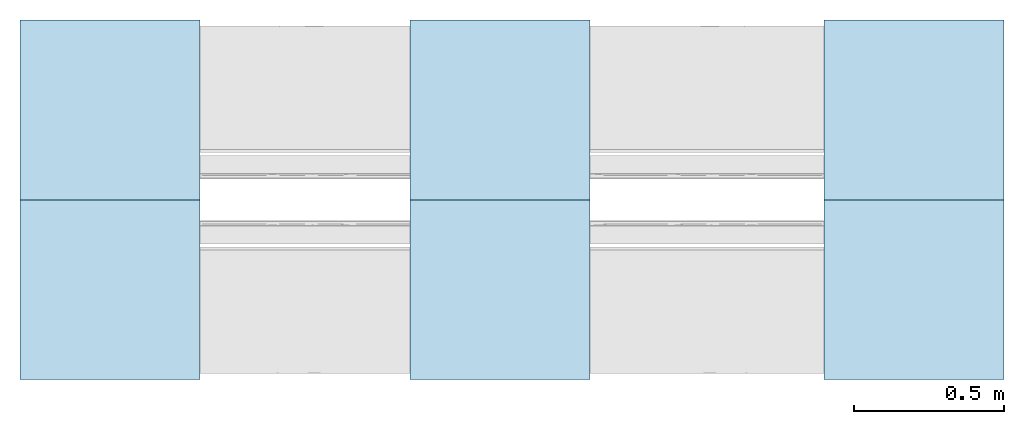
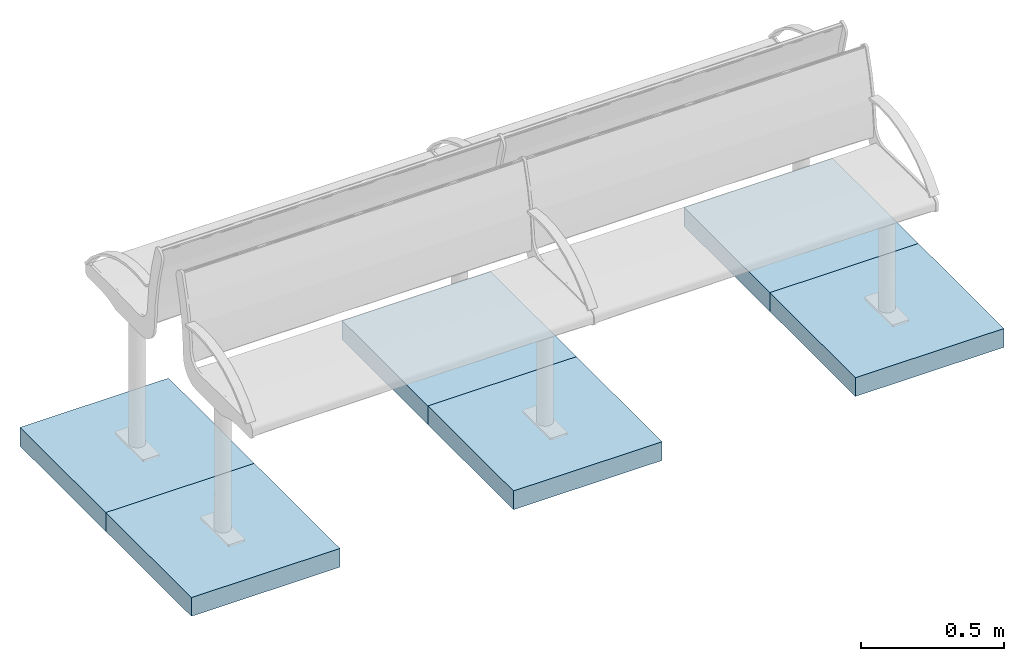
# One storey, incomplete: 6 slabs.
"""IFC4 building model written with IfcOpenShell, lengths in metres."""

from ifc_helpers import new_model, entity, si_unit, converted_unit, direction, frame, frame_2d, origin, place, context, subcontext, project, spatial, rectangle, extrude, material, type_object, element, save


model = new_model("IFC4")

# Units and contexts
model_context = context("Model", 3, precision=1e-05, world=origin(), true_north=direction((6.123031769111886e-17, 1.0)))
body_context = subcontext(model_context, "Body", "Model", "MODEL_VIEW")
ifc_project = project(units=[si_unit("LENGTHUNIT", "METRE"), converted_unit("PLANEANGLEUNIT", "DEGREE", entity("IfcPlaneAngleMeasure", 0.017453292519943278), si_unit("PLANEANGLEUNIT", "RADIAN"), dimensions=[0, 0, 0, 0, 0, 0, 0]), si_unit("AREAUNIT", "SQUARE_METRE")], contexts=[model_context])

# Site, building, storey
site_placement = place(None, origin())
site = spatial("IfcSite", under=ifc_project, at=site_placement, Name="Default", CompositionType="ELEMENT")
building_placement = place(site_placement, origin())
building = spatial("IfcBuilding", under=site, at=building_placement, CompositionType="ELEMENT")
storey_placement = place(building_placement, origin())
storey = spatial("IfcBuildingStorey", under=building, at=storey_placement, Name="DB_Bezugshoehe_max_Bahnsteigkante", CompositionType="ELEMENT", Elevation=0.0)

# Slabs
ifc_material = material(Name="DB_Fertigbeton", Category="DB_Beton")
slab_type = type_object("IfcSlabType", Name="DB_Sitzbank_Fundament:DB_Sitzbank_Fundament", PredefinedType="BASESLAB", material=ifc_material)
slab_1_placement = place(storey_placement, origin())
element("IfcSlab", 1, at=slab_1_placement, inside=storey, type_object=slab_type, Name="DB_Sitzbank_Fundament:DB_Sitzbank_Fundament", ObjectType="DB_Sitzbank_Fundament:DB_Sitzbank_Fundament", PredefinedType="BASESLAB", context=body_context, shape_type="SweptSolid", body=[
    extrude(rectangle(XDim=0.5999999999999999, YDim=0.5999999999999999, at=frame_2d((0.0, -8.326672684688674e-17), x_axis=(1.0, 0.0))), frame((1.3409999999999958, 0.2994971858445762, -0.25), z_axis=(0.0, 0.0, 1.0), x_axis=(0.0, 1.0, 0.0)), (0.0, 0.0, 1.0), 0.08000000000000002),
])
slab_2_placement = place(storey_placement, origin())
element("IfcSlab", 2, at=slab_2_placement, inside=storey, type_object=slab_type, Name="DB_Sitzbank_Fundament:DB_Sitzbank_Fundament", ObjectType="DB_Sitzbank_Fundament:DB_Sitzbank_Fundament", PredefinedType="BASESLAB", context=body_context, shape_type="SweptSolid", body=[
    extrude(rectangle(XDim=0.5989943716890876, YDim=0.5999999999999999, at=frame_2d((0.0, -8.326672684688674e-17), x_axis=(1.0, 0.0))), frame((1.3409999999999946, -0.29999999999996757, -0.25), z_axis=(0.0, 0.0, 1.0), x_axis=(0.0, 1.0, 0.0)), (0.0, 0.0, 1.0), 0.08000000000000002),
])
slab_3_placement = place(storey_placement, origin())
element("IfcSlab", 3, at=slab_3_placement, inside=storey, type_object=slab_type, Name="DB_Sitzbank_Fundament:DB_Sitzbank_Fundament", ObjectType="DB_Sitzbank_Fundament:DB_Sitzbank_Fundament", PredefinedType="BASESLAB", context=body_context, shape_type="SweptSolid", body=[
    extrude(rectangle(XDim=0.5999999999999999, YDim=0.5999999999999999, at=frame_2d((0.0, 1.3877787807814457e-16), x_axis=(1.0, 0.0))), frame((-1.3409999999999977, 0.29949718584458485, -0.25), z_axis=(0.0, 0.0, 1.0), x_axis=(0.0, 1.0, 0.0)), (0.0, 0.0, 1.0), 0.08000000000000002),
])
slab_4_placement = place(storey_placement, origin())
element("IfcSlab", 4, at=slab_4_placement, inside=storey, type_object=slab_type, Name="DB_Sitzbank_Fundament:DB_Sitzbank_Fundament", ObjectType="DB_Sitzbank_Fundament:DB_Sitzbank_Fundament", PredefinedType="BASESLAB", context=body_context, shape_type="SweptSolid", body=[
    extrude(rectangle(XDim=0.5989943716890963, YDim=0.5999999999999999, at=frame_2d((0.0, 1.3877787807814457e-16), x_axis=(1.0, 0.0))), frame((-1.3409999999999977, -0.29999999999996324, -0.2500000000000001), z_axis=(0.0, 0.0, 1.0), x_axis=(0.0, 1.0, 0.0)), (0.0, 0.0, 1.0), 0.08000000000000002),
])
slab_5_placement = place(storey_placement, origin())
element("IfcSlab", 5, at=slab_5_placement, inside=storey, type_object=slab_type, Name="DB_Sitzbank_Fundament:DB_Sitzbank_Fundament", ObjectType="DB_Sitzbank_Fundament:DB_Sitzbank_Fundament", PredefinedType="BASESLAB", context=body_context, shape_type="SweptSolid", body=[
    extrude(rectangle(XDim=0.5999999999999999, YDim=0.5999999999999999, at=frame_2d((0.0, -2.7755575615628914e-17), x_axis=(1.0, 0.0))), frame((-0.03999999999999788, 0.2994971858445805, -0.25), z_axis=(0.0, 0.0, 1.0), x_axis=(0.0, 1.0, 0.0)), (0.0, 0.0, 1.0), 0.08000000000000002),
])
slab_6_placement = place(storey_placement, origin())
element("IfcSlab", 6, at=slab_6_placement, inside=storey, type_object=slab_type, Name="DB_Sitzbank_Fundament:DB_Sitzbank_Fundament", ObjectType="DB_Sitzbank_Fundament:DB_Sitzbank_Fundament", PredefinedType="BASESLAB", context=body_context, shape_type="SweptSolid", body=[
    extrude(rectangle(XDim=0.5989943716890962, YDim=0.5999999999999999, at=frame_2d((0.0, -2.7755575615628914e-17), x_axis=(1.0, 0.0))), frame((-0.03999999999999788, -0.2999999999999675, -0.2500000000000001), z_axis=(0.0, 0.0, 1.0), x_axis=(0.0, 1.0, 0.0)), (0.0, 0.0, 1.0), 0.08000000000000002),
])

save(model, "model.ifc")
